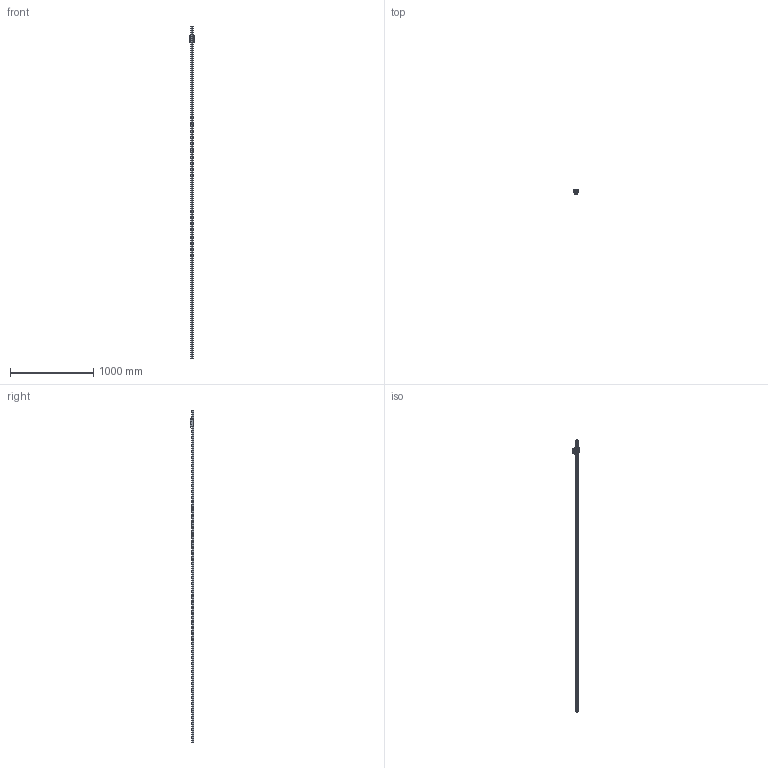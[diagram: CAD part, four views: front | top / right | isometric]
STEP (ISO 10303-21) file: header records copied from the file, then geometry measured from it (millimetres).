
FILE_DESCRIPTION((''),'2;1');
FILE_NAME('BRS35-SU_CUSTOMER_ASM_1_ASM','2020-11-24T16:49:47',('TWVS2025'),(''),'CREO PARAMETRIC BY PTC INC, 2018420','CREO PARAMETRIC BY PTC INC, 2018420','');
FILE_SCHEMA(('CONFIG_CONTROL_DESIGN'));
Products named in the file (4): BC-BRC35-SU_ASM_1_3; BC-BRC35-SU_ASM_1_ASM; BRR35_CUSTOMER_1; BRS35-SU_CUSTOMER_ASM_1_ASM
Assembly tree (3 placements, depth 3):
  BRS35-SU_CUSTOMER_ASM_1_ASM
    BC-BRC35-SU_ASM_1_ASM
      BC-BRC35-SU_ASM_1_3
    BRR35_CUSTOMER_1
Bounding box: 69.95 x 48 x 4000 mm (x, y, z)
Volume: 3501647.8 mm3; surface area: 617178.2 mm2
Topology: 2 solids, 12 shells, 1489 faces, 4276 edges, 2856 vertices
Faces by surface type: plane 727, cylinder 598, bspline 92, cone 38, torus 28, sphere 6
Entity records: 63355 total; most frequent: CARTESIAN_POINT 24402, ORIENTED_EDGE 8496, DIRECTION 7668, EDGE_CURVE 4248, VERTEX_POINT 2856, AXIS2_PLACEMENT_3D 2711, VECTOR 2246, LINE 2246
